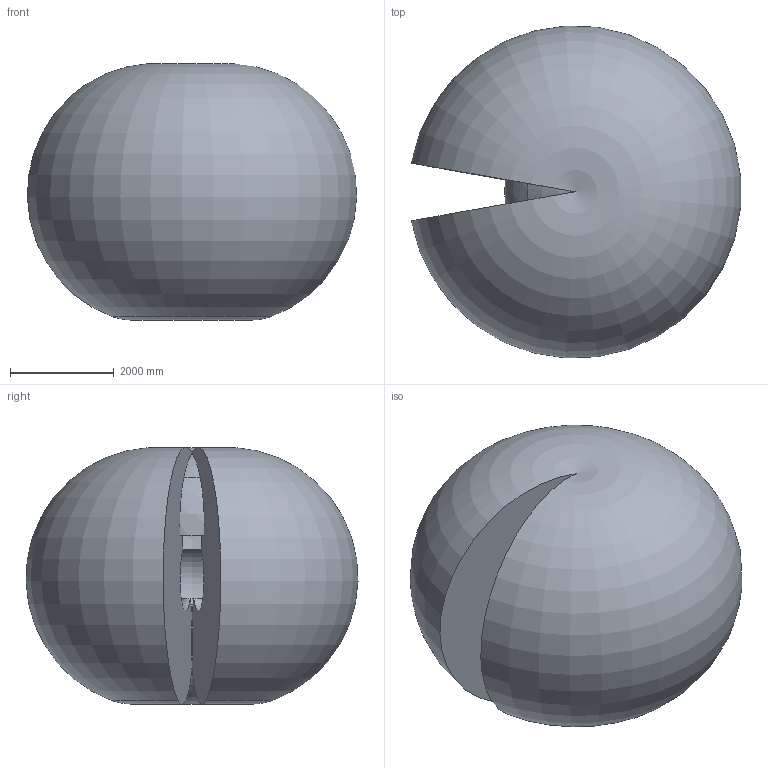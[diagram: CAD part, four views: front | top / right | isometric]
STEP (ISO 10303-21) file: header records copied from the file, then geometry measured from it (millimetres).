
FILE_DESCRIPTION (( 'STEP AP214' ), '1' );
FILE_NAME ('IRB6750S_350kg-320_OC_00_Working-envelope.step', '2026-05-07T13:39:52', ( '' ), ( '' ), 'SwSTEP 2.0', 'SolidWorks 2024', '' );
FILE_SCHEMA (( 'AUTOMOTIVE_DESIGN' ));
Length unit declared in the file: millimetre
Products named in the file (1): IRB6750S_350kg-320_OC_00_Working-envelope
Bounding box: 6332.66 x 6385.75 x 4935.55 mm (x, y, z)
Volume: 102978015988.1 mm3; surface area: 150613285.3 mm2
Topology: 1 solids, 1 shells, 15 faces, 43 edges, 22 vertices
Faces by surface type: torus 10, plane 4, bspline 1
Entity records: 552 total; most frequent: CARTESIAN_POINT 166, DIRECTION 92, ORIENTED_EDGE 70, AXIS2_PLACEMENT_3D 46, EDGE_CURVE 35, CIRCLE 31, VERTEX_POINT 22, ADVANCED_FACE 15
